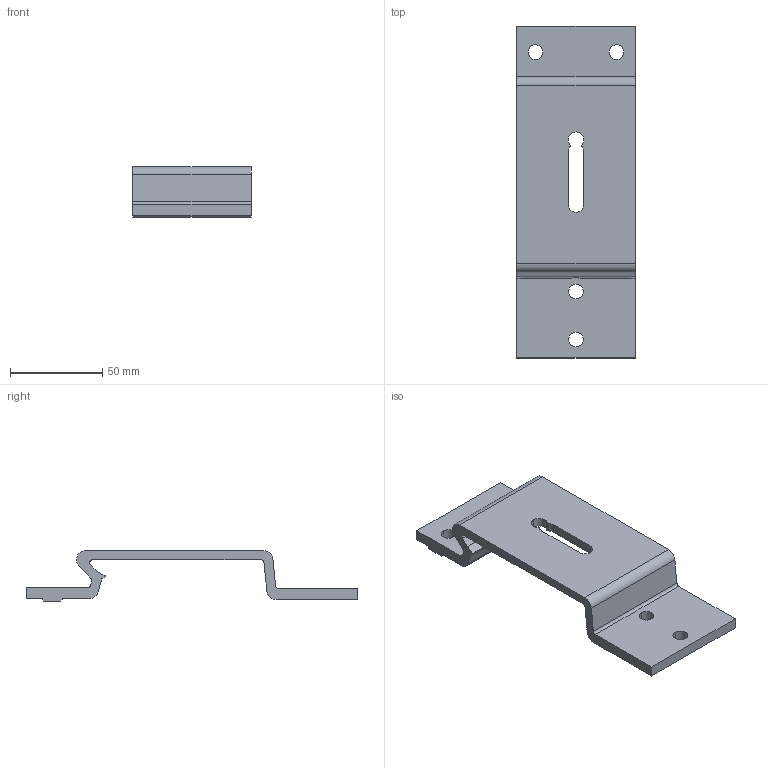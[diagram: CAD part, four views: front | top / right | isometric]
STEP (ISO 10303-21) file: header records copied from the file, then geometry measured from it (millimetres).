
FILE_DESCRIPTION (( 'STEP AP214' ), '1' );
FILE_NAME ('FABER - FAVBS 60S FA.STEP', '2017-04-05T12:15:18', ( '' ), ( '' ), 'SwSTEP 2.0', 'SolidWorks 2016', '' );
FILE_SCHEMA (( 'AUTOMOTIVE_DESIGN' ));
Length unit declared in the file: millimetre
Products named in the file (1): FABER - FAVBS 60S FA
Bounding box: 64 x 180 x 27.5 mm (x, y, z)
Volume: 76172.4 mm3; surface area: 32237.9 mm2
Topology: 1 solids, 1 shells, 52 faces, 150 edges, 100 vertices
Faces by surface type: cylinder 26, plane 26
Entity records: 1786 total; most frequent: CARTESIAN_POINT 312, DIRECTION 306, ORIENTED_EDGE 300, EDGE_CURVE 150, AXIS2_PLACEMENT_3D 104, VERTEX_POINT 100, VECTOR 98, LINE 98
